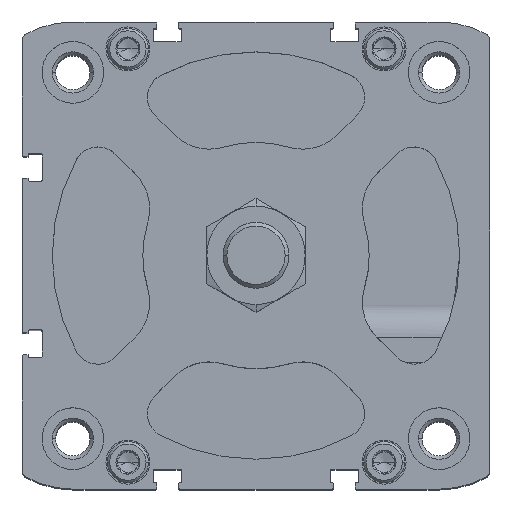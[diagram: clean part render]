
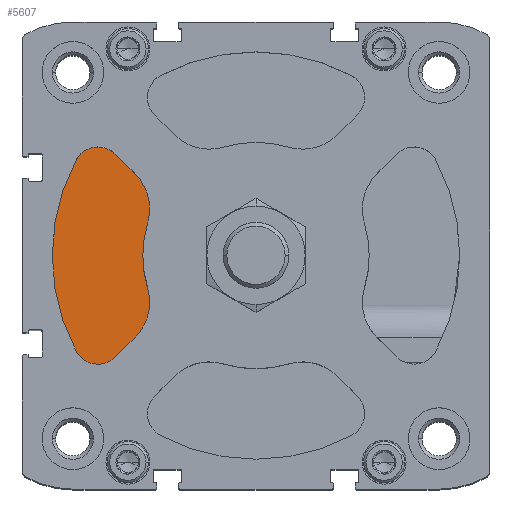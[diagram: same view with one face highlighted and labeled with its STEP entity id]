
A CAD part, top view. The second image highlights one B-rep face of the part: STEP entity #5607.
In plain terms, the highlighted planar face has unit normal (0, 0, 1).
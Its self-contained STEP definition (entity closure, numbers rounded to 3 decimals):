
#442 = PLANE ( 'NONE',  #444 ) ;
#444 = AXIS2_PLACEMENT_3D ( 'NONE', #17938, #2275, #21126 ) ;
#470 = CARTESIAN_POINT ( 'NONE',  ( -29.356, 19.81, -18.8 ) ) ;
#771 = ORIENTED_EDGE ( 'NONE', *, *, #5898, .F. ) ;
#1100 = VECTOR ( 'NONE', #10518, 1000. ) ;
#1440 = DIRECTION ( 'NONE',  ( 0., 0., 1. ) ) ;
#1607 = VERTEX_POINT ( 'NONE', #18053 ) ;
#1635 = AXIS2_PLACEMENT_3D ( 'NONE', #13846, #22545, #20829 ) ;
#2036 = VERTEX_POINT ( 'NONE', #21438 ) ;
#2190 = VERTEX_POINT ( 'NONE', #16739 ) ;
#2200 = EDGE_CURVE ( 'NONE', #2190, #1607, #3342, .T. ) ;
#2275 = DIRECTION ( 'NONE',  ( 0., 0., 1. ) ) ;
#2295 = CIRCLE ( 'NONE', #15066, 27.5 ) ;
#2473 = VERTEX_POINT ( 'NONE', #10672 ) ;
#2539 = CIRCLE ( 'NONE', #2913, 12. ) ;
#2913 = AXIS2_PLACEMENT_3D ( 'NONE', #19931, #19828, #9855 ) ;
#3151 = CARTESIAN_POINT ( 'NONE',  ( -38.424, 20.393, -18.8 ) ) ;
#3342 = CIRCLE ( 'NONE', #18334, 6. ) ;
#3344 = VERTEX_POINT ( 'NONE', #9436 ) ;
#3543 = LINE ( 'NONE', #470, #1100 ) ;
#3554 = DIRECTION ( 'NONE',  ( 0., 1., 0. ) ) ;
#3611 = ORIENTED_EDGE ( 'NONE', *, *, #14466, .T. ) ;
#3860 = EDGE_CURVE ( 'NONE', #2036, #14174, #3543, .T. ) ;
#4639 = ORIENTED_EDGE ( 'NONE', *, *, #6987, .T. ) ;
#5252 = DIRECTION ( 'NONE',  ( 0., 0., 1. ) ) ;
#5348 = FACE_OUTER_BOUND ( 'NONE', #19392, .T. ) ;
#5607 = ADVANCED_FACE ( 'NONE', ( #5348 ), #442, .T. ) ;
#5898 = EDGE_CURVE ( 'NONE', #21618, #14289, #2295, .T. ) ;
#6013 = DIRECTION ( 'NONE',  ( 0., 0., 1. ) ) ;
#6258 = CIRCLE ( 'NONE', #9182, 6. ) ;
#6260 = AXIS2_PLACEMENT_3D ( 'NONE', #19224, #6670, #3554 ) ;
#6581 = ORIENTED_EDGE ( 'NONE', *, *, #3860, .T. ) ;
#6670 = DIRECTION ( 'NONE',  ( 0., 0., 1. ) ) ;
#6987 = EDGE_CURVE ( 'NONE', #2473, #3344, #6258, .T. ) ;
#7386 = EDGE_CURVE ( 'NONE', #1607, #9602, #8521, .T. ) ;
#7611 = DIRECTION ( 'NONE',  ( 0., 1., 0. ) ) ;
#8521 = LINE ( 'NONE', #16982, #16130 ) ;
#8651 = DIRECTION ( 'NONE',  ( 0., 1., 0. ) ) ;
#9182 = AXIS2_PLACEMENT_3D ( 'NONE', #3151, #1440, #20659 ) ;
#9436 = CARTESIAN_POINT ( 'NONE',  ( -43.724, 23.205, -18.8 ) ) ;
#9602 = VERTEX_POINT ( 'NONE', #12721 ) ;
#9855 = DIRECTION ( 'NONE',  ( 0., 1., 0. ) ) ;
#10518 = DIRECTION ( 'NONE',  ( -0.707, 0.707, 0. ) ) ;
#10672 = CARTESIAN_POINT ( 'NONE',  ( -38.424, 26.393, -18.8 ) ) ;
#11494 = CIRCLE ( 'NONE', #20610, 6. ) ;
#11513 = CIRCLE ( 'NONE', #1635, 12. ) ;
#12235 = CARTESIAN_POINT ( 'NONE',  ( -38.424, 20.393, -18.8 ) ) ;
#12721 = CARTESIAN_POINT ( 'NONE',  ( -29.356, -19.81, -18.8 ) ) ;
#13191 = CIRCLE ( 'NONE', #6260, 49.5 ) ;
#13780 = DIRECTION ( 'NONE',  ( 0., 0., 1. ) ) ;
#13846 = CARTESIAN_POINT ( 'NONE',  ( -37.842, 11.325, -18.8 ) ) ;
#14174 = VERTEX_POINT ( 'NONE', #22459 ) ;
#14289 = VERTEX_POINT ( 'NONE', #16980 ) ;
#14295 = ORIENTED_EDGE ( 'NONE', *, *, #2200, .T. ) ;
#14466 = EDGE_CURVE ( 'NONE', #9602, #14289, #2539, .T. ) ;
#15066 = AXIS2_PLACEMENT_3D ( 'NONE', #17346, #13780, #8651 ) ;
#15237 = ORIENTED_EDGE ( 'NONE', *, *, #21316, .T. ) ;
#15699 = EDGE_CURVE ( 'NONE', #3344, #2190, #13191, .T. ) ;
#16130 = VECTOR ( 'NONE', #22462, 1000. ) ;
#16739 = CARTESIAN_POINT ( 'NONE',  ( -43.724, -23.205, -18.8 ) ) ;
#16980 = CARTESIAN_POINT ( 'NONE',  ( -26.345, -7.885, -18.8 ) ) ;
#16982 = CARTESIAN_POINT ( 'NONE',  ( -34.181, -24.635, -18.8 ) ) ;
#16999 = ORIENTED_EDGE ( 'NONE', *, *, #15699, .T. ) ;
#17346 = CARTESIAN_POINT ( 'NONE',  ( 0., 0., -18.8 ) ) ;
#17772 = CARTESIAN_POINT ( 'NONE',  ( -26.345, 7.885, -18.8 ) ) ;
#17938 = CARTESIAN_POINT ( 'NONE',  ( 0., 0., -18.8 ) ) ;
#18053 = CARTESIAN_POINT ( 'NONE',  ( -34.181, -24.635, -18.8 ) ) ;
#18173 = ORIENTED_EDGE ( 'NONE', *, *, #21904, .T. ) ;
#18334 = AXIS2_PLACEMENT_3D ( 'NONE', #21548, #6013, #7611 ) ;
#18576 = ORIENTED_EDGE ( 'NONE', *, *, #7386, .T. ) ;
#19201 = DIRECTION ( 'NONE',  ( 0., 1., 0. ) ) ;
#19224 = CARTESIAN_POINT ( 'NONE',  ( 0., 0., -18.8 ) ) ;
#19392 = EDGE_LOOP ( 'NONE', ( #16999, #14295, #18576, #3611, #771, #18173, #6581, #15237, #4639 ) ) ;
#19828 = DIRECTION ( 'NONE',  ( 0., 0., 1. ) ) ;
#19931 = CARTESIAN_POINT ( 'NONE',  ( -37.842, -11.325, -18.8 ) ) ;
#20610 = AXIS2_PLACEMENT_3D ( 'NONE', #12235, #5252, #19201 ) ;
#20659 = DIRECTION ( 'NONE',  ( 0., 1., 0. ) ) ;
#20829 = DIRECTION ( 'NONE',  ( 0., 1., 0. ) ) ;
#21126 = DIRECTION ( 'NONE',  ( 1., 0., 0. ) ) ;
#21316 = EDGE_CURVE ( 'NONE', #14174, #2473, #11494, .T. ) ;
#21438 = CARTESIAN_POINT ( 'NONE',  ( -29.356, 19.81, -18.8 ) ) ;
#21548 = CARTESIAN_POINT ( 'NONE',  ( -38.424, -20.393, -18.8 ) ) ;
#21618 = VERTEX_POINT ( 'NONE', #17772 ) ;
#21904 = EDGE_CURVE ( 'NONE', #21618, #2036, #11513, .T. ) ;
#22459 = CARTESIAN_POINT ( 'NONE',  ( -34.181, 24.635, -18.8 ) ) ;
#22462 = DIRECTION ( 'NONE',  ( 0.707, 0.707, 0. ) ) ;
#22545 = DIRECTION ( 'NONE',  ( 0., 0., 1. ) ) ;
